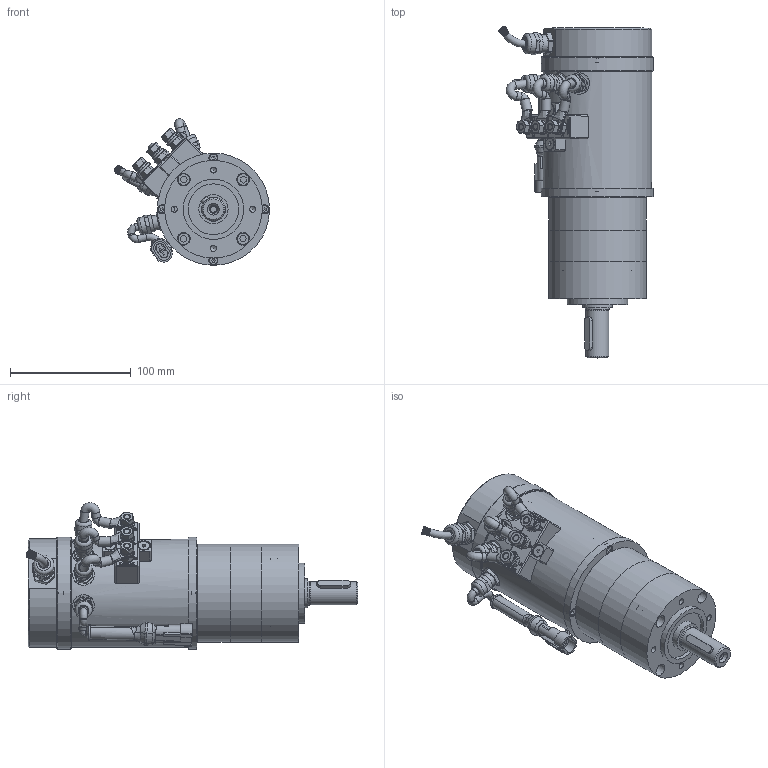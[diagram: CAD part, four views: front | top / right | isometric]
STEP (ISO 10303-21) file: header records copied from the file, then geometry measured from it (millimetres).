
FILE_DESCRIPTION(/* description */ (''),/* implementation_level */ '2;1');
FILE_NAME(/* name */ 'Z:\SITO WEB 2023\Motoriduttori\Motoriduttori PMAC\D.80 mm\BL080.PM81.stp',/* time_stamp */ '2023-09-20T08:53:45+02:00',/* author */ ('cad3'),/* organization */ (''),/* preprocessor_version */ 'ST-DEVELOPER v18.1',/* originating_system */ 'Autodesk Inventor 2022',/* authorisation */ '');
FILE_SCHEMA (('AUTOMOTIVE_DESIGN { 1 0 10303 214 3 1 1 }'));
Products named in the file (1): BL080.PM81
Bounding box: 128.53 x 275.14 x 121.57 mm (x, y, z)
Volume: 793730.4 mm3; surface area: 193090.4 mm2
Topology: 2 solids, 37 shells, 3069 faces, 7913 edges, 5026 vertices
Faces by surface type: plane 2273, cylinder 371, cone 196, bspline 157, torus 72
Full cylindrical faces by diameter (mm): 2.459 x3, 3 x1, 3.242 x8, 4 x12, 4.134 x1, 4.5 x12, 4.917 x8, 5 x7, 5.4 x2, 5.5 x1, 6 x21, 6.2 x6, 6.4 x11, 6.5 x6, 7 x18, 7.5 x10, 8 x8, 8.5 x4, 8.88 x3, 9.64 x2, 10 x10, 10.5 x4, 11 x3, 12 x8, 13.835 x1, 14 x8, 15 x1, 17 x2, 18 x6, 19 x1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
Entity records: 100734 total; most frequent: CARTESIAN_POINT 23293, ORIENTED_EDGE 15734, DIRECTION 15155, EDGE_CURVE 7867, AXIS2_PLACEMENT_3D 5159, VERTEX_POINT 5026, LINE 4837, VECTOR 4837
